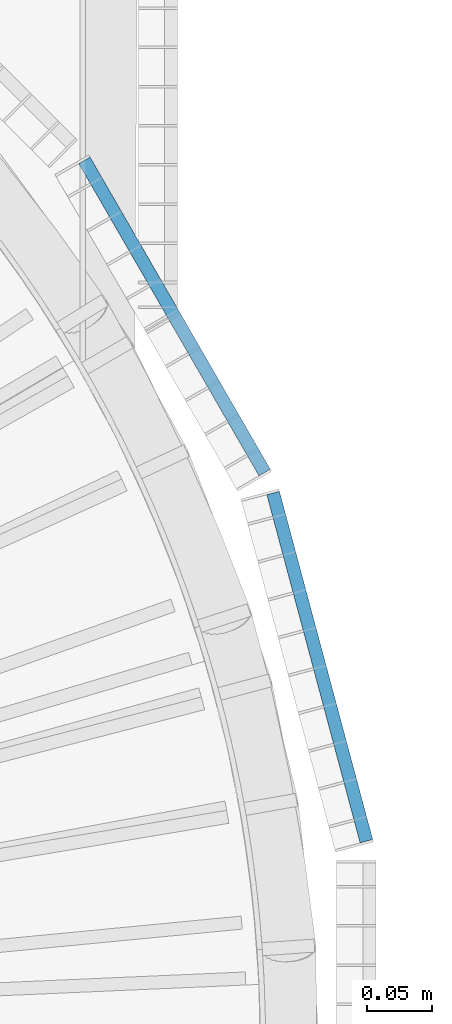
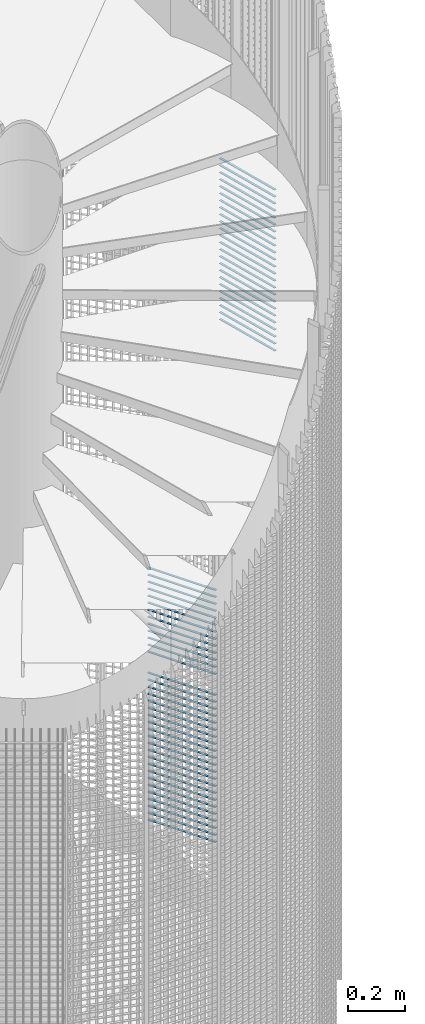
# One storey, part 300 of 1183: 59 beams, 2 elements without a shape of their own.
"""IFC2X3 building model written with IfcOpenShell, lengths in millimetres."""

from ifc_helpers import new_model, si_unit, frame, origin_with_axes, origin_2d_with_axis, place, context, subcontext, project, spatial, rectangle, extrude, material, type_object, element, aggregate, save


model = new_model("IFC2X3")

# Units and contexts
model_context = context("Model", 3, precision=1e-05, world=origin_with_axes())
body_context = subcontext(model_context, "Body", "Model", "MODEL_VIEW")
ifc_project = project(units=[si_unit("LENGTHUNIT", "METRE", prefix="MILLI"), si_unit("AREAUNIT", "SQUARE_METRE"), si_unit("VOLUMEUNIT", "CUBIC_METRE"), si_unit("MASSUNIT", "GRAM", prefix="KILO"), si_unit("TIMEUNIT", "SECOND"), si_unit("PLANEANGLEUNIT", "RADIAN"), si_unit("SOLIDANGLEUNIT", "STERADIAN"), si_unit("THERMODYNAMICTEMPERATUREUNIT", "DEGREE_CELSIUS"), si_unit("LUMINOUSINTENSITYUNIT", "LUMEN")], contexts=[model_context])

# Site, building, storey
site_placement = place(None, origin_with_axes())
site = spatial("IfcSite", under=ifc_project, at=site_placement, Name="Undefined", CompositionType="ELEMENT")
building_placement = place(site_placement, origin_with_axes())
building = spatial("IfcBuilding", under=site, at=building_placement, Name="Undefined", CompositionType="ELEMENT")
storey_placement = place(building_placement, origin_with_axes())
storey = spatial("IfcBuildingStorey", under=building, at=storey_placement, Name="Undefined", CompositionType="ELEMENT", Elevation=0.0)

# Assembly, beams
assembly_1_placement = place(storey_placement, origin_with_axes())
assembly_1 = element("IfcElementAssembly", 1, at=assembly_1_placement, inside=storey, Name="BORDURE", AssemblyPlace="NOTDEFINED", PredefinedType="NOTDEFINED")
ifc_material = material(Name="STEEL/S235JR")
beam_type = type_object("IfcBeamType", Name="PL2*10", PredefinedType="NOTDEFINED")
beam_1_placement = place(assembly_1_placement, frame((1033.29996828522, 437.231955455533, 3750.0), z_axis=(0.866025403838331, 0.499999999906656, 0.0), x_axis=(-0.49999999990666, 0.866025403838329, 0.0)))
beam_1 = element("IfcBeam", 2, at=beam_1_placement, type_object=beam_type, material=ifc_material, Name="ENTRETOISE", context=body_context, shape_type="SweptSolid", body=[
    extrude(rectangle(XDim=2.0, YDim=10.0, at=origin_2d_with_axis()), frame((275.999999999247, 9.09494701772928e-13, 1.53210777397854e-14), z_axis=(-1.0, 0.0, 0.0), x_axis=(0.0, -1.0, 0.0)), (0.0, 0.0, 1.0), 276.0),
])
beam_2_placement = place(assembly_1_placement, frame((1033.29996828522, 437.231955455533, 3660.0), z_axis=(0.866025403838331, 0.499999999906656, 0.0), x_axis=(-0.49999999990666, 0.866025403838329, 0.0)))
beam_2 = element("IfcBeam", 3, at=beam_2_placement, type_object=beam_type, material=ifc_material, Name="ENTRETOISE", context=body_context, shape_type="SweptSolid", body=[
    extrude(rectangle(XDim=2.0, YDim=10.0, at=origin_2d_with_axis()), frame((275.999999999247, 9.09494701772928e-13, 1.53210777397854e-14), z_axis=(-1.0, 0.0, 0.0), x_axis=(0.0, -1.0, 0.0)), (0.0, 0.0, 1.0), 276.0),
])
beam_3_placement = place(assembly_1_placement, frame((1033.29996828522, 437.231955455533, 3630.0), z_axis=(0.866025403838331, 0.499999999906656, 0.0), x_axis=(-0.49999999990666, 0.866025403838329, 0.0)))
beam_3 = element("IfcBeam", 4, at=beam_3_placement, type_object=beam_type, material=ifc_material, Name="ENTRETOISE", context=body_context, shape_type="SweptSolid", body=[
    extrude(rectangle(XDim=2.0, YDim=10.0, at=origin_2d_with_axis()), frame((275.999999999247, 9.09494701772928e-13, 1.53210777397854e-14), z_axis=(-1.0, 0.0, 0.0), x_axis=(0.0, -1.0, 0.0)), (0.0, 0.0, 1.0), 276.0),
])
beam_4_placement = place(assembly_1_placement, frame((1033.29996828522, 437.231955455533, 3780.0), z_axis=(0.866025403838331, 0.499999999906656, 0.0), x_axis=(-0.49999999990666, 0.866025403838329, 0.0)))
beam_4 = element("IfcBeam", 5, at=beam_4_placement, type_object=beam_type, material=ifc_material, Name="ENTRETOISE", context=body_context, shape_type="SweptSolid", body=[
    extrude(rectangle(XDim=2.0, YDim=10.0, at=origin_2d_with_axis()), frame((275.999999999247, 9.09494701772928e-13, 1.53210777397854e-14), z_axis=(-1.0, 0.0, 0.0), x_axis=(0.0, -1.0, 0.0)), (0.0, 0.0, 1.0), 276.0),
])
beam_5_placement = place(assembly_1_placement, frame((1033.29996828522, 437.231955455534, 3600.0), z_axis=(0.866025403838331, 0.499999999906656, 0.0), x_axis=(-0.49999999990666, 0.866025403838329, 0.0)))
beam_5 = element("IfcBeam", 6, at=beam_5_placement, type_object=beam_type, material=ifc_material, Name="ENTRETOISE", context=body_context, shape_type="SweptSolid", body=[
    extrude(rectangle(XDim=2.0, YDim=10.0, at=origin_2d_with_axis()), frame((275.999999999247, 9.09494701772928e-13, 1.53210777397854e-14), z_axis=(-1.0, 0.0, 0.0), x_axis=(0.0, -1.0, 0.0)), (0.0, 0.0, 1.0), 276.0),
])
beam_6_placement = place(assembly_1_placement, frame((1033.29996828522, 437.231955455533, 3810.0), z_axis=(0.866025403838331, 0.499999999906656, 0.0), x_axis=(-0.49999999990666, 0.866025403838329, 0.0)))
beam_6 = element("IfcBeam", 7, at=beam_6_placement, type_object=beam_type, material=ifc_material, Name="ENTRETOISE", context=body_context, shape_type="SweptSolid", body=[
    extrude(rectangle(XDim=2.0, YDim=10.0, at=origin_2d_with_axis()), frame((275.999999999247, 9.09494701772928e-13, 1.53210777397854e-14), z_axis=(-1.0, 0.0, 0.0), x_axis=(0.0, -1.0, 0.0)), (0.0, 0.0, 1.0), 276.0),
])
beam_7_placement = place(assembly_1_placement, frame((1033.29996828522, 437.231955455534, 3570.0), z_axis=(0.866025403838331, 0.499999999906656, 0.0), x_axis=(-0.49999999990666, 0.866025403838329, 0.0)))
beam_7 = element("IfcBeam", 8, at=beam_7_placement, type_object=beam_type, material=ifc_material, Name="ENTRETOISE", context=body_context, shape_type="SweptSolid", body=[
    extrude(rectangle(XDim=2.0, YDim=10.0, at=origin_2d_with_axis()), frame((275.999999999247, 9.09494701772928e-13, 1.53210777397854e-14), z_axis=(-1.0, 0.0, 0.0), x_axis=(0.0, -1.0, 0.0)), (0.0, 0.0, 1.0), 276.0),
])
beam_8_placement = place(assembly_1_placement, frame((1033.29996828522, 437.231955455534, 3540.0), z_axis=(0.866025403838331, 0.499999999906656, 0.0), x_axis=(-0.49999999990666, 0.866025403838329, 0.0)))
beam_8 = element("IfcBeam", 9, at=beam_8_placement, type_object=beam_type, material=ifc_material, Name="ENTRETOISE", context=body_context, shape_type="SweptSolid", body=[
    extrude(rectangle(XDim=2.0, YDim=10.0, at=origin_2d_with_axis()), frame((275.999999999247, 9.09494701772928e-13, 1.53210777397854e-14), z_axis=(-1.0, 0.0, 0.0), x_axis=(0.0, -1.0, 0.0)), (0.0, 0.0, 1.0), 276.0),
])
beam_9_placement = place(assembly_1_placement, frame((1033.29996828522, 437.231955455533, 3840.0), z_axis=(0.866025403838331, 0.499999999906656, 0.0), x_axis=(-0.49999999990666, 0.866025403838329, 0.0)))
beam_9 = element("IfcBeam", 10, at=beam_9_placement, type_object=beam_type, material=ifc_material, Name="ENTRETOISE", context=body_context, shape_type="SweptSolid", body=[
    extrude(rectangle(XDim=2.0, YDim=10.0, at=origin_2d_with_axis()), frame((275.999999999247, 9.09494701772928e-13, 1.53210777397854e-14), z_axis=(-1.0, 0.0, 0.0), x_axis=(0.0, -1.0, 0.0)), (0.0, 0.0, 1.0), 276.0),
])
beam_10_placement = place(assembly_1_placement, frame((1033.29996828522, 437.231955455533, 3510.0), z_axis=(0.866025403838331, 0.499999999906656, 0.0), x_axis=(-0.49999999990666, 0.866025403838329, 0.0)))
beam_10 = element("IfcBeam", 11, at=beam_10_placement, type_object=beam_type, material=ifc_material, Name="ENTRETOISE", context=body_context, shape_type="SweptSolid", body=[
    extrude(rectangle(XDim=2.0, YDim=10.0, at=origin_2d_with_axis()), frame((275.999999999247, 9.09494701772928e-13, 1.53210777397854e-14), z_axis=(-1.0, 0.0, 0.0), x_axis=(0.0, -1.0, 0.0)), (0.0, 0.0, 1.0), 276.0),
])
beam_11_placement = place(assembly_1_placement, frame((1033.29996828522, 437.231955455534, 3480.0), z_axis=(0.866025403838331, 0.499999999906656, 0.0), x_axis=(-0.49999999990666, 0.866025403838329, 0.0)))
beam_11 = element("IfcBeam", 12, at=beam_11_placement, type_object=beam_type, material=ifc_material, Name="ENTRETOISE", context=body_context, shape_type="SweptSolid", body=[
    extrude(rectangle(XDim=2.0, YDim=10.0, at=origin_2d_with_axis()), frame((275.999999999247, 9.09494701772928e-13, 1.53210777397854e-14), z_axis=(-1.0, 0.0, 0.0), x_axis=(0.0, -1.0, 0.0)), (0.0, 0.0, 1.0), 276.0),
])
beam_12_placement = place(assembly_1_placement, frame((1033.29996828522, 437.231955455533, 3870.0), z_axis=(0.866025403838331, 0.499999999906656, 0.0), x_axis=(-0.49999999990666, 0.866025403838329, 0.0)))
beam_12 = element("IfcBeam", 13, at=beam_12_placement, type_object=beam_type, material=ifc_material, Name="ENTRETOISE", context=body_context, shape_type="SweptSolid", body=[
    extrude(rectangle(XDim=2.0, YDim=10.0, at=origin_2d_with_axis()), frame((275.999999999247, 9.09494701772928e-13, 1.53210777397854e-14), z_axis=(-1.0, 0.0, 0.0), x_axis=(0.0, -1.0, 0.0)), (0.0, 0.0, 1.0), 276.0),
])
beam_13_placement = place(assembly_1_placement, frame((1033.29996828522, 437.231955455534, 3450.0), z_axis=(0.866025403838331, 0.499999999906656, 0.0), x_axis=(-0.49999999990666, 0.866025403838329, 0.0)))
beam_13 = element("IfcBeam", 14, at=beam_13_placement, type_object=beam_type, material=ifc_material, Name="ENTRETOISE", context=body_context, shape_type="SweptSolid", body=[
    extrude(rectangle(XDim=2.0, YDim=10.0, at=origin_2d_with_axis()), frame((275.999999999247, 9.09494701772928e-13, 1.53210777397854e-14), z_axis=(-1.0, 0.0, 0.0), x_axis=(0.0, -1.0, 0.0)), (0.0, 0.0, 1.0), 276.0),
])
beam_14_placement = place(assembly_1_placement, frame((1033.29996828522, 437.231955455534, 3420.0), z_axis=(0.866025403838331, 0.499999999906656, 0.0), x_axis=(-0.49999999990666, 0.866025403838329, 0.0)))
beam_14 = element("IfcBeam", 15, at=beam_14_placement, type_object=beam_type, material=ifc_material, Name="ENTRETOISE", context=body_context, shape_type="SweptSolid", body=[
    extrude(rectangle(XDim=2.0, YDim=10.0, at=origin_2d_with_axis()), frame((275.999999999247, 9.09494701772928e-13, 1.53210777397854e-14), z_axis=(-1.0, 0.0, 0.0), x_axis=(0.0, -1.0, 0.0)), (0.0, 0.0, 1.0), 276.0),
])
beam_15_placement = place(assembly_1_placement, frame((1033.29996828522, 437.231955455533, 3900.0), z_axis=(0.866025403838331, 0.499999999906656, 0.0), x_axis=(-0.49999999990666, 0.866025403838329, 0.0)))
beam_15 = element("IfcBeam", 16, at=beam_15_placement, type_object=beam_type, material=ifc_material, Name="ENTRETOISE", context=body_context, shape_type="SweptSolid", body=[
    extrude(rectangle(XDim=2.0, YDim=10.0, at=origin_2d_with_axis()), frame((275.999999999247, 9.09494701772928e-13, 1.53210777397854e-14), z_axis=(-1.0, 0.0, 0.0), x_axis=(0.0, -1.0, 0.0)), (0.0, 0.0, 1.0), 276.0),
])
beam_16_placement = place(assembly_1_placement, frame((1033.29996828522, 437.231955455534, 3390.0), z_axis=(0.866025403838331, 0.499999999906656, 0.0), x_axis=(-0.49999999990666, 0.866025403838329, 0.0)))
beam_16 = element("IfcBeam", 17, at=beam_16_placement, type_object=beam_type, material=ifc_material, Name="ENTRETOISE", context=body_context, shape_type="SweptSolid", body=[
    extrude(rectangle(XDim=2.0, YDim=10.0, at=origin_2d_with_axis()), frame((275.999999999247, 9.09494701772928e-13, 1.53210777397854e-14), z_axis=(-1.0, 0.0, 0.0), x_axis=(0.0, -1.0, 0.0)), (0.0, 0.0, 1.0), 276.0),
])
beam_17_placement = place(assembly_1_placement, frame((1033.29996828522, 437.231955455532, 3930.0), z_axis=(0.866025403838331, 0.499999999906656, 0.0), x_axis=(-0.49999999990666, 0.866025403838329, 0.0)))
beam_17 = element("IfcBeam", 18, at=beam_17_placement, type_object=beam_type, material=ifc_material, Name="ENTRETOISE", context=body_context, shape_type="SweptSolid", body=[
    extrude(rectangle(XDim=2.0, YDim=10.0, at=origin_2d_with_axis()), frame((275.999999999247, 9.09494701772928e-13, 1.53210777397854e-14), z_axis=(-1.0, 0.0, 0.0), x_axis=(0.0, -1.0, 0.0)), (0.0, 0.0, 1.0), 276.0),
])
beam_18_placement = place(assembly_1_placement, frame((1033.29996828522, 437.231955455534, 3360.0), z_axis=(0.866025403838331, 0.499999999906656, 0.0), x_axis=(-0.49999999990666, 0.866025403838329, 0.0)))
beam_18 = element("IfcBeam", 19, at=beam_18_placement, type_object=beam_type, material=ifc_material, Name="ENTRETOISE", context=body_context, shape_type="SweptSolid", body=[
    extrude(rectangle(XDim=2.0, YDim=10.0, at=origin_2d_with_axis()), frame((275.999999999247, 9.09494701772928e-13, 1.53210777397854e-14), z_axis=(-1.0, 0.0, 0.0), x_axis=(0.0, -1.0, 0.0)), (0.0, 0.0, 1.0), 276.0),
])
beam_19_placement = place(assembly_1_placement, frame((1033.29996828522, 437.231955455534, 3330.0), z_axis=(0.866025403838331, 0.499999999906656, 0.0), x_axis=(-0.49999999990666, 0.866025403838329, 0.0)))
beam_19 = element("IfcBeam", 20, at=beam_19_placement, type_object=beam_type, material=ifc_material, Name="ENTRETOISE", context=body_context, shape_type="SweptSolid", body=[
    extrude(rectangle(XDim=2.0, YDim=10.0, at=origin_2d_with_axis()), frame((275.999999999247, 9.09494701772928e-13, 1.53210777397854e-14), z_axis=(-1.0, 0.0, 0.0), x_axis=(0.0, -1.0, 0.0)), (0.0, 0.0, 1.0), 276.0),
])
beam_20_placement = place(assembly_1_placement, frame((1033.29996828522, 437.231955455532, 3960.0), z_axis=(0.866025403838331, 0.499999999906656, 0.0), x_axis=(-0.49999999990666, 0.866025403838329, 0.0)))
beam_20 = element("IfcBeam", 21, at=beam_20_placement, type_object=beam_type, material=ifc_material, Name="ENTRETOISE", context=body_context, shape_type="SweptSolid", body=[
    extrude(rectangle(XDim=2.0, YDim=10.0, at=origin_2d_with_axis()), frame((275.999999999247, 9.09494701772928e-13, 1.53210777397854e-14), z_axis=(-1.0, 0.0, 0.0), x_axis=(0.0, -1.0, 0.0)), (0.0, 0.0, 1.0), 276.0),
])
beam_21_placement = place(assembly_1_placement, frame((1033.29996828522, 437.231955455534, 3300.0), z_axis=(0.866025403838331, 0.499999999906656, 0.0), x_axis=(-0.49999999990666, 0.866025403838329, 0.0)))
beam_21 = element("IfcBeam", 22, at=beam_21_placement, type_object=beam_type, material=ifc_material, Name="ENTRETOISE", context=body_context, shape_type="SweptSolid", body=[
    extrude(rectangle(XDim=2.0, YDim=10.0, at=origin_2d_with_axis()), frame((275.999999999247, 9.09494701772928e-13, 1.53210777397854e-14), z_axis=(-1.0, 0.0, 0.0), x_axis=(0.0, -1.0, 0.0)), (0.0, 0.0, 1.0), 276.0),
])
beam_22_placement = place(assembly_1_placement, frame((1033.29996828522, 437.231955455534, 3270.0), z_axis=(0.866025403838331, 0.499999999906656, 0.0), x_axis=(-0.49999999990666, 0.866025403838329, 0.0)))
beam_22 = element("IfcBeam", 23, at=beam_22_placement, type_object=beam_type, material=ifc_material, Name="ENTRETOISE", context=body_context, shape_type="SweptSolid", body=[
    extrude(rectangle(XDim=2.0, YDim=10.0, at=origin_2d_with_axis()), frame((275.999999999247, 9.09494701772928e-13, 1.53210777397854e-14), z_axis=(-1.0, 0.0, 0.0), x_axis=(0.0, -1.0, 0.0)), (0.0, 0.0, 1.0), 276.0),
])
beam_23_placement = place(assembly_1_placement, frame((1033.29996828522, 437.231955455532, 3990.0), z_axis=(0.866025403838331, 0.499999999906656, 0.0), x_axis=(-0.49999999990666, 0.866025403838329, 0.0)))
beam_23 = element("IfcBeam", 24, at=beam_23_placement, type_object=beam_type, material=ifc_material, Name="ENTRETOISE", context=body_context, shape_type="SweptSolid", body=[
    extrude(rectangle(XDim=2.0, YDim=10.0, at=origin_2d_with_axis()), frame((275.999999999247, 9.09494701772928e-13, 1.53210777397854e-14), z_axis=(-1.0, 0.0, 0.0), x_axis=(0.0, -1.0, 0.0)), (0.0, 0.0, 1.0), 276.0),
])
beam_24_placement = place(assembly_1_placement, frame((1033.29996828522, 437.231955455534, 3240.0), z_axis=(0.866025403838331, 0.499999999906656, 0.0), x_axis=(-0.49999999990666, 0.866025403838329, 0.0)))
beam_24 = element("IfcBeam", 25, at=beam_24_placement, type_object=beam_type, material=ifc_material, Name="ENTRETOISE", context=body_context, shape_type="SweptSolid", body=[
    extrude(rectangle(XDim=2.0, YDim=10.0, at=origin_2d_with_axis()), frame((275.999999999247, 9.09494701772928e-13, 1.53210777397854e-14), z_axis=(-1.0, 0.0, 0.0), x_axis=(0.0, -1.0, 0.0)), (0.0, 0.0, 1.0), 276.0),
])
beam_25_placement = place(assembly_1_placement, frame((1033.29996828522, 437.231955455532, 4020.0), z_axis=(0.866025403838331, 0.499999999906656, 0.0), x_axis=(-0.49999999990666, 0.866025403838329, 0.0)))
beam_25 = element("IfcBeam", 26, at=beam_25_placement, type_object=beam_type, material=ifc_material, Name="ENTRETOISE", context=body_context, shape_type="SweptSolid", body=[
    extrude(rectangle(XDim=2.0, YDim=10.0, at=origin_2d_with_axis()), frame((275.999999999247, 9.09494701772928e-13, 1.53210777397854e-14), z_axis=(-1.0, 0.0, 0.0), x_axis=(0.0, -1.0, 0.0)), (0.0, 0.0, 1.0), 276.0),
])
beam_26_placement = place(assembly_1_placement, frame((1033.29996828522, 437.231955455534, 3210.0), z_axis=(0.866025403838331, 0.499999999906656, 0.0), x_axis=(-0.49999999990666, 0.866025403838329, 0.0)))
beam_26 = element("IfcBeam", 27, at=beam_26_placement, type_object=beam_type, material=ifc_material, Name="ENTRETOISE", context=body_context, shape_type="SweptSolid", body=[
    extrude(rectangle(XDim=2.0, YDim=10.0, at=origin_2d_with_axis()), frame((275.999999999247, 9.09494701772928e-13, 1.53210777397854e-14), z_axis=(-1.0, 0.0, 0.0), x_axis=(0.0, -1.0, 0.0)), (0.0, 0.0, 1.0), 276.0),
])
beam_27_placement = place(assembly_1_placement, frame((1033.29996828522, 437.231955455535, 3180.0), z_axis=(0.866025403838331, 0.499999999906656, 0.0), x_axis=(-0.49999999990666, 0.866025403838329, 0.0)))
beam_27 = element("IfcBeam", 28, at=beam_27_placement, type_object=beam_type, material=ifc_material, Name="ENTRETOISE", context=body_context, shape_type="SweptSolid", body=[
    extrude(rectangle(XDim=2.0, YDim=10.0, at=origin_2d_with_axis()), frame((275.999999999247, 9.09494701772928e-13, 1.53210777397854e-14), z_axis=(-1.0, 0.0, 0.0), x_axis=(0.0, -1.0, 0.0)), (0.0, 0.0, 1.0), 276.0),
])
beam_28_placement = place(assembly_1_placement, frame((1033.29996828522, 437.231955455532, 4050.0), z_axis=(0.866025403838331, 0.499999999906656, 0.0), x_axis=(-0.49999999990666, 0.866025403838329, 0.0)))
beam_28 = element("IfcBeam", 29, at=beam_28_placement, type_object=beam_type, material=ifc_material, Name="ENTRETOISE", context=body_context, shape_type="SweptSolid", body=[
    extrude(rectangle(XDim=2.0, YDim=10.0, at=origin_2d_with_axis()), frame((275.999999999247, 9.09494701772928e-13, 1.53210777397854e-14), z_axis=(-1.0, 0.0, 0.0), x_axis=(0.0, -1.0, 0.0)), (0.0, 0.0, 1.0), 276.0),
])
beam_29_placement = place(assembly_1_placement, frame((1033.29996828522, 437.231955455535, 3150.0), z_axis=(0.866025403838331, 0.499999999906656, 0.0), x_axis=(-0.49999999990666, 0.866025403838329, 0.0)))
beam_29 = element("IfcBeam", 30, at=beam_29_placement, type_object=beam_type, material=ifc_material, Name="ENTRETOISE", context=body_context, shape_type="SweptSolid", body=[
    extrude(rectangle(XDim=2.0, YDim=10.0, at=origin_2d_with_axis()), frame((275.999999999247, 9.09494701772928e-13, 1.53210777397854e-14), z_axis=(-1.0, 0.0, 0.0), x_axis=(0.0, -1.0, 0.0)), (0.0, 0.0, 1.0), 276.0),
])
beam_30_placement = place(assembly_1_placement, frame((1033.29996828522, 437.231955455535, 3120.0), z_axis=(0.866025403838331, 0.499999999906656, 0.0), x_axis=(-0.49999999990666, 0.866025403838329, 0.0)))
beam_30 = element("IfcBeam", 31, at=beam_30_placement, type_object=beam_type, material=ifc_material, Name="ENTRETOISE", context=body_context, shape_type="SweptSolid", body=[
    extrude(rectangle(XDim=2.0, YDim=10.0, at=origin_2d_with_axis()), frame((275.999999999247, 9.09494701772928e-13, 1.53210777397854e-14), z_axis=(-1.0, 0.0, 0.0), x_axis=(0.0, -1.0, 0.0)), (0.0, 0.0, 1.0), 276.0),
])
beam_31_placement = place(assembly_1_placement, frame((1033.29996828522, 437.231955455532, 4080.0), z_axis=(0.866025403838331, 0.499999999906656, 0.0), x_axis=(-0.49999999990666, 0.866025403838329, 0.0)))
beam_31 = element("IfcBeam", 32, at=beam_31_placement, type_object=beam_type, material=ifc_material, Name="ENTRETOISE", context=body_context, shape_type="SweptSolid", body=[
    extrude(rectangle(XDim=2.0, YDim=10.0, at=origin_2d_with_axis()), frame((275.999999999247, 9.09494701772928e-13, 1.53210777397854e-14), z_axis=(-1.0, 0.0, 0.0), x_axis=(0.0, -1.0, 0.0)), (0.0, 0.0, 1.0), 276.0),
])
beam_32_placement = place(assembly_1_placement, frame((1033.29996828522, 437.231955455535, 3090.0), z_axis=(0.866025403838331, 0.499999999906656, 0.0), x_axis=(-0.49999999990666, 0.866025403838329, 0.0)))
beam_32 = element("IfcBeam", 33, at=beam_32_placement, type_object=beam_type, material=ifc_material, Name="ENTRETOISE", context=body_context, shape_type="SweptSolid", body=[
    extrude(rectangle(XDim=2.0, YDim=10.0, at=origin_2d_with_axis()), frame((275.999999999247, 9.09494701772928e-13, 1.53210777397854e-14), z_axis=(-1.0, 0.0, 0.0), x_axis=(0.0, -1.0, 0.0)), (0.0, 0.0, 1.0), 276.0),
])
beam_33_placement = place(assembly_1_placement, frame((1033.29996828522, 437.231955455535, 3060.0), z_axis=(0.866025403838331, 0.499999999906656, 0.0), x_axis=(-0.49999999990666, 0.866025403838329, 0.0)))
beam_33 = element("IfcBeam", 34, at=beam_33_placement, type_object=beam_type, material=ifc_material, Name="ENTRETOISE", context=body_context, shape_type="SweptSolid", body=[
    extrude(rectangle(XDim=2.0, YDim=10.0, at=origin_2d_with_axis()), frame((275.999999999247, 9.09494701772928e-13, 1.53210777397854e-14), z_axis=(-1.0, 0.0, 0.0), x_axis=(0.0, -1.0, 0.0)), (0.0, 0.0, 1.0), 276.0),
])
beam_34_placement = place(assembly_1_placement, frame((1033.29996828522, 437.231955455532, 4110.0), z_axis=(0.866025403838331, 0.499999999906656, 0.0), x_axis=(-0.49999999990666, 0.866025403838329, 0.0)))
beam_34 = element("IfcBeam", 35, at=beam_34_placement, type_object=beam_type, material=ifc_material, Name="ENTRETOISE", context=body_context, shape_type="SweptSolid", body=[
    extrude(rectangle(XDim=2.0, YDim=10.0, at=origin_2d_with_axis()), frame((275.999999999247, 9.09494701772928e-13, 1.53210777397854e-14), z_axis=(-1.0, 0.0, 0.0), x_axis=(0.0, -1.0, 0.0)), (0.0, 0.0, 1.0), 276.0),
])
beam_35_placement = place(assembly_1_placement, frame((1033.29996828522, 437.231955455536, 3030.0), z_axis=(0.866025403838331, 0.499999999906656, 0.0), x_axis=(-0.49999999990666, 0.866025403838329, 0.0)))
beam_35 = element("IfcBeam", 36, at=beam_35_placement, type_object=beam_type, material=ifc_material, Name="ENTRETOISE", context=body_context, shape_type="SweptSolid", body=[
    extrude(rectangle(XDim=2.0, YDim=10.0, at=origin_2d_with_axis()), frame((275.999999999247, 9.09494701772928e-13, 1.53210777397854e-14), z_axis=(-1.0, 0.0, 0.0), x_axis=(0.0, -1.0, 0.0)), (0.0, 0.0, 1.0), 276.0),
])
aggregate(assembly_1, [beam_1, beam_2, beam_3, beam_4, beam_5, beam_6, beam_7, beam_8, beam_9, beam_10, beam_11, beam_12, beam_13, beam_14, beam_15, beam_16, beam_17, beam_18, beam_19, beam_20, beam_21, beam_22, beam_23, beam_24, beam_25, beam_26, beam_27, beam_28, beam_29, beam_30, beam_31, beam_32, beam_33, beam_34, beam_35])

assembly_2_placement = place(storey_placement, origin_with_axes())
assembly_2 = element("IfcElementAssembly", 37, at=assembly_2_placement, inside=storey, Name="BORDURE", AssemblyPlace="NOTDEFINED", PredefinedType="NOTDEFINED")
beam_36_placement = place(assembly_2_placement, frame((1111.25508286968, 154.895926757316, 5970.0), z_axis=(0.965925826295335, 0.258819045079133, 0.0), x_axis=(-0.258819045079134, 0.965925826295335, 0.0)))
beam_36 = element("IfcBeam", 38, at=beam_36_placement, type_object=beam_type, material=ifc_material, Name="ENTRETOISE", context=body_context, shape_type="SweptSolid", body=[
    extrude(rectangle(XDim=2.0, YDim=10.0, at=origin_2d_with_axis()), frame((275.999999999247, 9.09494701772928e-13, 1.53210777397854e-14), z_axis=(-1.0, 0.0, 0.0), x_axis=(0.0, -1.0, 0.0)), (0.0, 0.0, 1.0), 276.0),
])
beam_37_placement = place(assembly_2_placement, frame((1111.25508286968, 154.895926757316, 5940.0), z_axis=(0.965925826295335, 0.258819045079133, 0.0), x_axis=(-0.258819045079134, 0.965925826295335, 0.0)))
beam_37 = element("IfcBeam", 39, at=beam_37_placement, type_object=beam_type, material=ifc_material, Name="ENTRETOISE", context=body_context, shape_type="SweptSolid", body=[
    extrude(rectangle(XDim=2.0, YDim=10.0, at=origin_2d_with_axis()), frame((275.999999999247, 9.09494701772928e-13, 1.53210777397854e-14), z_axis=(-1.0, 0.0, 0.0), x_axis=(0.0, -1.0, 0.0)), (0.0, 0.0, 1.0), 276.0),
])
beam_38_placement = place(assembly_2_placement, frame((1111.25508286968, 154.895926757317, 5910.0), z_axis=(0.965925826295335, 0.258819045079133, 0.0), x_axis=(-0.258819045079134, 0.965925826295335, 0.0)))
beam_38 = element("IfcBeam", 40, at=beam_38_placement, type_object=beam_type, material=ifc_material, Name="ENTRETOISE", context=body_context, shape_type="SweptSolid", body=[
    extrude(rectangle(XDim=2.0, YDim=10.0, at=origin_2d_with_axis()), frame((275.999999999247, 9.09494701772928e-13, 1.53210777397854e-14), z_axis=(-1.0, 0.0, 0.0), x_axis=(0.0, -1.0, 0.0)), (0.0, 0.0, 1.0), 276.0),
])
beam_39_placement = place(assembly_2_placement, frame((1111.25508286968, 154.895926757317, 5880.0), z_axis=(0.965925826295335, 0.258819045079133, 0.0), x_axis=(-0.258819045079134, 0.965925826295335, 0.0)))
beam_39 = element("IfcBeam", 41, at=beam_39_placement, type_object=beam_type, material=ifc_material, Name="ENTRETOISE", context=body_context, shape_type="SweptSolid", body=[
    extrude(rectangle(XDim=2.0, YDim=10.0, at=origin_2d_with_axis()), frame((275.999999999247, 9.09494701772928e-13, 1.53210777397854e-14), z_axis=(-1.0, 0.0, 0.0), x_axis=(0.0, -1.0, 0.0)), (0.0, 0.0, 1.0), 276.0),
])
beam_40_placement = place(assembly_2_placement, frame((1111.25508286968, 154.895926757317, 5850.0), z_axis=(0.965925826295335, 0.258819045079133, 0.0), x_axis=(-0.258819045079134, 0.965925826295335, 0.0)))
beam_40 = element("IfcBeam", 42, at=beam_40_placement, type_object=beam_type, material=ifc_material, Name="ENTRETOISE", context=body_context, shape_type="SweptSolid", body=[
    extrude(rectangle(XDim=2.0, YDim=10.0, at=origin_2d_with_axis()), frame((275.999999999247, 9.09494701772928e-13, 1.53210777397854e-14), z_axis=(-1.0, 0.0, 0.0), x_axis=(0.0, -1.0, 0.0)), (0.0, 0.0, 1.0), 276.0),
])
beam_41_placement = place(assembly_2_placement, frame((1111.25508286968, 154.895926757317, 5820.0), z_axis=(0.965925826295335, 0.258819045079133, 0.0), x_axis=(-0.258819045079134, 0.965925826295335, 0.0)))
beam_41 = element("IfcBeam", 43, at=beam_41_placement, type_object=beam_type, material=ifc_material, Name="ENTRETOISE", context=body_context, shape_type="SweptSolid", body=[
    extrude(rectangle(XDim=2.0, YDim=10.0, at=origin_2d_with_axis()), frame((275.999999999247, 9.09494701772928e-13, 1.53210777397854e-14), z_axis=(-1.0, 0.0, 0.0), x_axis=(0.0, -1.0, 0.0)), (0.0, 0.0, 1.0), 276.0),
])
beam_42_placement = place(assembly_2_placement, frame((1111.25508286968, 154.895926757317, 5790.0), z_axis=(0.965925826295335, 0.258819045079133, 0.0), x_axis=(-0.258819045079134, 0.965925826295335, 0.0)))
beam_42 = element("IfcBeam", 44, at=beam_42_placement, type_object=beam_type, material=ifc_material, Name="ENTRETOISE", context=body_context, shape_type="SweptSolid", body=[
    extrude(rectangle(XDim=2.0, YDim=10.0, at=origin_2d_with_axis()), frame((275.999999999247, 9.09494701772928e-13, 1.53210777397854e-14), z_axis=(-1.0, 0.0, 0.0), x_axis=(0.0, -1.0, 0.0)), (0.0, 0.0, 1.0), 276.0),
])
beam_43_placement = place(assembly_2_placement, frame((1111.25508286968, 154.895926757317, 5760.0), z_axis=(0.965925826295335, 0.258819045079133, 0.0), x_axis=(-0.258819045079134, 0.965925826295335, 0.0)))
beam_43 = element("IfcBeam", 45, at=beam_43_placement, type_object=beam_type, material=ifc_material, Name="ENTRETOISE", context=body_context, shape_type="SweptSolid", body=[
    extrude(rectangle(XDim=2.0, YDim=10.0, at=origin_2d_with_axis()), frame((275.999999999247, 9.09494701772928e-13, 1.53210777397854e-14), z_axis=(-1.0, 0.0, 0.0), x_axis=(0.0, -1.0, 0.0)), (0.0, 0.0, 1.0), 276.0),
])
beam_44_placement = place(assembly_2_placement, frame((1111.25508286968, 154.895926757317, 5730.0), z_axis=(0.965925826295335, 0.258819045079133, 0.0), x_axis=(-0.258819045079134, 0.965925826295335, 0.0)))
beam_44 = element("IfcBeam", 46, at=beam_44_placement, type_object=beam_type, material=ifc_material, Name="ENTRETOISE", context=body_context, shape_type="SweptSolid", body=[
    extrude(rectangle(XDim=2.0, YDim=10.0, at=origin_2d_with_axis()), frame((275.999999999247, 9.09494701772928e-13, 1.53210777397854e-14), z_axis=(-1.0, 0.0, 0.0), x_axis=(0.0, -1.0, 0.0)), (0.0, 0.0, 1.0), 276.0),
])
beam_45_placement = place(assembly_2_placement, frame((1111.25508286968, 154.895926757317, 5700.0), z_axis=(0.965925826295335, 0.258819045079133, 0.0), x_axis=(-0.258819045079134, 0.965925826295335, 0.0)))
beam_45 = element("IfcBeam", 47, at=beam_45_placement, type_object=beam_type, material=ifc_material, Name="ENTRETOISE", context=body_context, shape_type="SweptSolid", body=[
    extrude(rectangle(XDim=2.0, YDim=10.0, at=origin_2d_with_axis()), frame((275.999999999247, 9.09494701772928e-13, 1.53210777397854e-14), z_axis=(-1.0, 0.0, 0.0), x_axis=(0.0, -1.0, 0.0)), (0.0, 0.0, 1.0), 276.0),
])
beam_46_placement = place(assembly_2_placement, frame((1111.25508286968, 154.895926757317, 5670.0), z_axis=(0.965925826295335, 0.258819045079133, 0.0), x_axis=(-0.258819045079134, 0.965925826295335, 0.0)))
beam_46 = element("IfcBeam", 48, at=beam_46_placement, type_object=beam_type, material=ifc_material, Name="ENTRETOISE", context=body_context, shape_type="SweptSolid", body=[
    extrude(rectangle(XDim=2.0, YDim=10.0, at=origin_2d_with_axis()), frame((275.999999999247, 9.09494701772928e-13, 1.53210777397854e-14), z_axis=(-1.0, 0.0, 0.0), x_axis=(0.0, -1.0, 0.0)), (0.0, 0.0, 1.0), 276.0),
])
beam_47_placement = place(assembly_2_placement, frame((1111.25508286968, 154.895926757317, 5640.0), z_axis=(0.965925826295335, 0.258819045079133, 0.0), x_axis=(-0.258819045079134, 0.965925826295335, 0.0)))
beam_47 = element("IfcBeam", 49, at=beam_47_placement, type_object=beam_type, material=ifc_material, Name="ENTRETOISE", context=body_context, shape_type="SweptSolid", body=[
    extrude(rectangle(XDim=2.0, YDim=10.0, at=origin_2d_with_axis()), frame((275.999999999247, 9.09494701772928e-13, 1.53210777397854e-14), z_axis=(-1.0, 0.0, 0.0), x_axis=(0.0, -1.0, 0.0)), (0.0, 0.0, 1.0), 276.0),
])
beam_48_placement = place(assembly_2_placement, frame((1111.25508286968, 154.895926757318, 5610.0), z_axis=(0.965925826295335, 0.258819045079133, 0.0), x_axis=(-0.258819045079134, 0.965925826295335, 0.0)))
beam_48 = element("IfcBeam", 50, at=beam_48_placement, type_object=beam_type, material=ifc_material, Name="ENTRETOISE", context=body_context, shape_type="SweptSolid", body=[
    extrude(rectangle(XDim=2.0, YDim=10.0, at=origin_2d_with_axis()), frame((275.999999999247, 9.09494701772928e-13, 1.53210777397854e-14), z_axis=(-1.0, 0.0, 0.0), x_axis=(0.0, -1.0, 0.0)), (0.0, 0.0, 1.0), 276.0),
])
beam_49_placement = place(assembly_2_placement, frame((1111.25508286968, 154.895926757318, 5580.0), z_axis=(0.965925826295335, 0.258819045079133, 0.0), x_axis=(-0.258819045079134, 0.965925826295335, 0.0)))
beam_49 = element("IfcBeam", 51, at=beam_49_placement, type_object=beam_type, material=ifc_material, Name="ENTRETOISE", context=body_context, shape_type="SweptSolid", body=[
    extrude(rectangle(XDim=2.0, YDim=10.0, at=origin_2d_with_axis()), frame((275.999999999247, 9.09494701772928e-13, 1.53210777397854e-14), z_axis=(-1.0, 0.0, 0.0), x_axis=(0.0, -1.0, 0.0)), (0.0, 0.0, 1.0), 276.0),
])
beam_50_placement = place(assembly_2_placement, frame((1111.25508286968, 154.895926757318, 5550.0), z_axis=(0.965925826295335, 0.258819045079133, 0.0), x_axis=(-0.258819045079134, 0.965925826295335, 0.0)))
beam_50 = element("IfcBeam", 52, at=beam_50_placement, type_object=beam_type, material=ifc_material, Name="ENTRETOISE", context=body_context, shape_type="SweptSolid", body=[
    extrude(rectangle(XDim=2.0, YDim=10.0, at=origin_2d_with_axis()), frame((275.999999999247, 9.09494701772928e-13, 1.53210777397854e-14), z_axis=(-1.0, 0.0, 0.0), x_axis=(0.0, -1.0, 0.0)), (0.0, 0.0, 1.0), 276.0),
])
beam_51_placement = place(assembly_2_placement, frame((1111.25508286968, 154.895926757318, 5520.0), z_axis=(0.965925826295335, 0.258819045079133, 0.0), x_axis=(-0.258819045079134, 0.965925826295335, 0.0)))
beam_51 = element("IfcBeam", 53, at=beam_51_placement, type_object=beam_type, material=ifc_material, Name="ENTRETOISE", context=body_context, shape_type="SweptSolid", body=[
    extrude(rectangle(XDim=2.0, YDim=10.0, at=origin_2d_with_axis()), frame((275.999999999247, 9.09494701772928e-13, 1.53210777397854e-14), z_axis=(-1.0, 0.0, 0.0), x_axis=(0.0, -1.0, 0.0)), (0.0, 0.0, 1.0), 276.0),
])
beam_52_placement = place(assembly_2_placement, frame((1111.25508286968, 154.895926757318, 5490.0), z_axis=(0.965925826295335, 0.258819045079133, 0.0), x_axis=(-0.258819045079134, 0.965925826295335, 0.0)))
beam_52 = element("IfcBeam", 54, at=beam_52_placement, type_object=beam_type, material=ifc_material, Name="ENTRETOISE", context=body_context, shape_type="SweptSolid", body=[
    extrude(rectangle(XDim=2.0, YDim=10.0, at=origin_2d_with_axis()), frame((275.999999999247, 9.09494701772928e-13, 1.53210777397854e-14), z_axis=(-1.0, 0.0, 0.0), x_axis=(0.0, -1.0, 0.0)), (0.0, 0.0, 1.0), 276.0),
])
beam_53_placement = place(assembly_2_placement, frame((1111.25508286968, 154.895926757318, 5460.0), z_axis=(0.965925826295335, 0.258819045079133, 0.0), x_axis=(-0.258819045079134, 0.965925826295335, 0.0)))
beam_53 = element("IfcBeam", 55, at=beam_53_placement, type_object=beam_type, material=ifc_material, Name="ENTRETOISE", context=body_context, shape_type="SweptSolid", body=[
    extrude(rectangle(XDim=2.0, YDim=10.0, at=origin_2d_with_axis()), frame((275.999999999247, 9.09494701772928e-13, 1.53210777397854e-14), z_axis=(-1.0, 0.0, 0.0), x_axis=(0.0, -1.0, 0.0)), (0.0, 0.0, 1.0), 276.0),
])
beam_54_placement = place(assembly_2_placement, frame((1111.25508286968, 154.895926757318, 5430.0), z_axis=(0.965925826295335, 0.258819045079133, 0.0), x_axis=(-0.258819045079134, 0.965925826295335, 0.0)))
beam_54 = element("IfcBeam", 56, at=beam_54_placement, type_object=beam_type, material=ifc_material, Name="ENTRETOISE", context=body_context, shape_type="SweptSolid", body=[
    extrude(rectangle(XDim=2.0, YDim=10.0, at=origin_2d_with_axis()), frame((275.999999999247, 9.09494701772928e-13, 1.53210777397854e-14), z_axis=(-1.0, 0.0, 0.0), x_axis=(0.0, -1.0, 0.0)), (0.0, 0.0, 1.0), 276.0),
])
beam_55_placement = place(assembly_2_placement, frame((1111.25508286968, 154.895926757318, 5400.0), z_axis=(0.965925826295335, 0.258819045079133, 0.0), x_axis=(-0.258819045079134, 0.965925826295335, 0.0)))
beam_55 = element("IfcBeam", 57, at=beam_55_placement, type_object=beam_type, material=ifc_material, Name="ENTRETOISE", context=body_context, shape_type="SweptSolid", body=[
    extrude(rectangle(XDim=2.0, YDim=10.0, at=origin_2d_with_axis()), frame((275.999999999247, 9.09494701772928e-13, 1.53210777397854e-14), z_axis=(-1.0, 0.0, 0.0), x_axis=(0.0, -1.0, 0.0)), (0.0, 0.0, 1.0), 276.0),
])
beam_56_placement = place(assembly_2_placement, frame((1111.25508286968, 154.895926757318, 5370.0), z_axis=(0.965925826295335, 0.258819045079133, 0.0), x_axis=(-0.258819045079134, 0.965925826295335, 0.0)))
beam_56 = element("IfcBeam", 58, at=beam_56_placement, type_object=beam_type, material=ifc_material, Name="ENTRETOISE", context=body_context, shape_type="SweptSolid", body=[
    extrude(rectangle(XDim=2.0, YDim=10.0, at=origin_2d_with_axis()), frame((275.999999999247, 9.09494701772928e-13, 1.53210777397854e-14), z_axis=(-1.0, 0.0, 0.0), x_axis=(0.0, -1.0, 0.0)), (0.0, 0.0, 1.0), 276.0),
])
beam_57_placement = place(assembly_2_placement, frame((1111.25508286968, 154.895926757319, 5340.0), z_axis=(0.965925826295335, 0.258819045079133, 0.0), x_axis=(-0.258819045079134, 0.965925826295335, 0.0)))
beam_57 = element("IfcBeam", 59, at=beam_57_placement, type_object=beam_type, material=ifc_material, Name="ENTRETOISE", context=body_context, shape_type="SweptSolid", body=[
    extrude(rectangle(XDim=2.0, YDim=10.0, at=origin_2d_with_axis()), frame((275.999999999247, 9.09494701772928e-13, 1.53210777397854e-14), z_axis=(-1.0, 0.0, 0.0), x_axis=(0.0, -1.0, 0.0)), (0.0, 0.0, 1.0), 276.0),
])
beam_58_placement = place(assembly_2_placement, frame((1111.25508286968, 154.895926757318, 5310.0), z_axis=(0.965925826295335, 0.258819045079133, 0.0), x_axis=(-0.258819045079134, 0.965925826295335, 0.0)))
beam_58 = element("IfcBeam", 60, at=beam_58_placement, type_object=beam_type, material=ifc_material, Name="ENTRETOISE", context=body_context, shape_type="SweptSolid", body=[
    extrude(rectangle(XDim=2.0, YDim=10.0, at=origin_2d_with_axis()), frame((275.999999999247, 9.09494701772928e-13, 1.53210777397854e-14), z_axis=(-1.0, 0.0, 0.0), x_axis=(0.0, -1.0, 0.0)), (0.0, 0.0, 1.0), 276.0),
])
beam_59_placement = place(assembly_2_placement, frame((1111.25508286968, 154.895926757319, 5280.0), z_axis=(0.965925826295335, 0.258819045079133, 0.0), x_axis=(-0.258819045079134, 0.965925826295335, 0.0)))
beam_59 = element("IfcBeam", 61, at=beam_59_placement, type_object=beam_type, material=ifc_material, Name="ENTRETOISE", context=body_context, shape_type="SweptSolid", body=[
    extrude(rectangle(XDim=2.0, YDim=10.0, at=origin_2d_with_axis()), frame((275.999999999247, 9.09494701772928e-13, 1.53210777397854e-14), z_axis=(-1.0, 0.0, 0.0), x_axis=(0.0, -1.0, 0.0)), (0.0, 0.0, 1.0), 276.0),
])
aggregate(assembly_2, [beam_36, beam_37, beam_38, beam_39, beam_40, beam_41, beam_42, beam_43, beam_44, beam_45, beam_46, beam_47, beam_48, beam_49, beam_50, beam_51, beam_52, beam_53, beam_54, beam_55, beam_56, beam_57, beam_58, beam_59])

save(model, "model.ifc")
